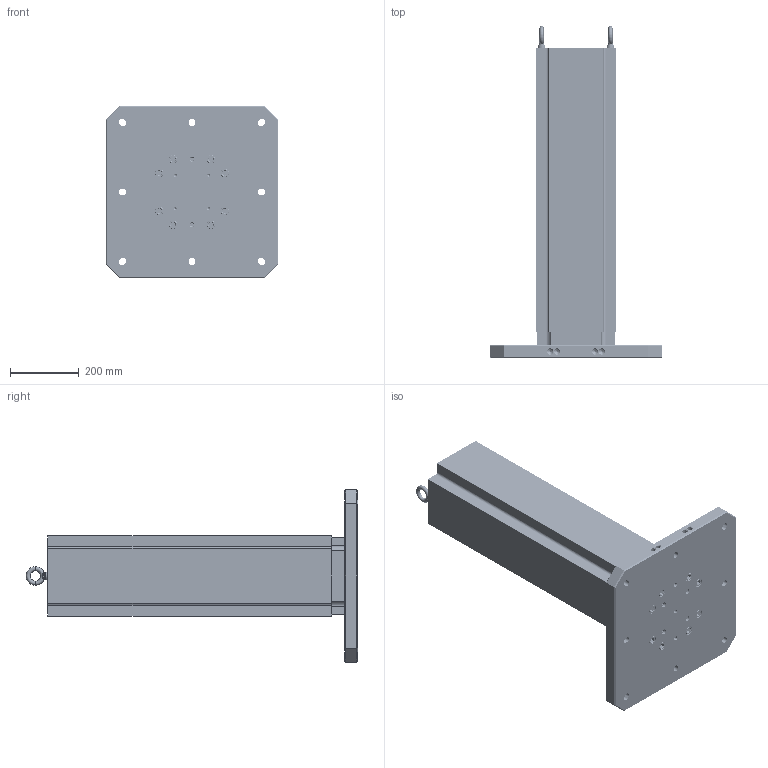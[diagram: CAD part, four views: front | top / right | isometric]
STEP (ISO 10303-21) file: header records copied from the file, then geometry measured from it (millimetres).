
FILE_DESCRIPTION (( 'STEP AP214' ), '1' );
FILE_NAME ('MTA-5004U-900.STEP', '2025-06-24T07:47:33', ( '' ), ( '' ), 'SwSTEP 2.0', 'SolidWorks 2024', '' );
FILE_SCHEMA (( 'AUTOMOTIVE_DESIGN' ));
Length unit declared in the file: millimetre
Products named in the file (8): HW.76452_dev_91290A835; M12X24MM.EB (McM 3040T15)_3040T15; MT-4862A_MT-4600A; MTA-5004U-900; RL96-14TC; 156x2.OR  -  O-RING, 156mm ID X 2mm THK, BUNA-N, 70A; HW.76172; RL96-5004BUA
Assembly tree (18 placements, depth 2):
  MTA-5004U-900
    RL96-5004BUA
    MT-4862A_MT-4600A
    156x2.OR  -  O-RING, 156mm ID X 2mm THK, BUNA-N, 70A
    RL96-14TC
    HW.76172  x4
    M12X24MM.EB (McM 3040T15)_3040T15  x2
    HW.76452_dev_91290A835  x8
Bounding box: 500 x 962.9 x 500 mm (x, y, z)
Volume: 37539490.6 mm3; surface area: 2024865.7 mm2
Topology: 18 solids, 18 shells, 2067 faces, 5534 edges, 3527 vertices
Faces by surface type: cylinder 1388, plane 317, cone 290, bspline 42, torus 30
Entity records: 33506 total; most frequent: CARTESIAN_POINT 13928, ORIENTED_EDGE 4182, DIRECTION 3969, EDGE_CURVE 2091, AXIS2_PLACEMENT_3D 1491, VERTEX_POINT 1332, LINE 987, VECTOR 987
